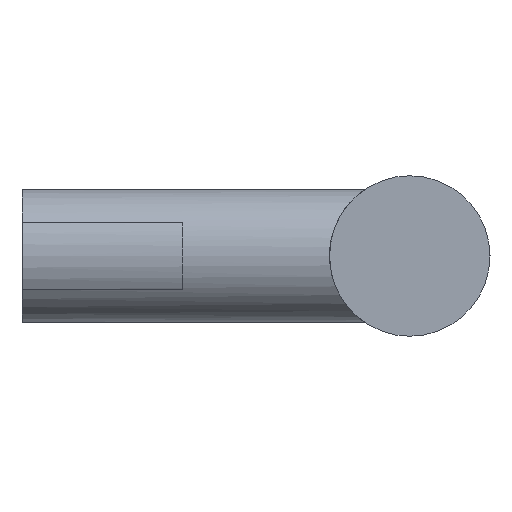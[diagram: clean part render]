
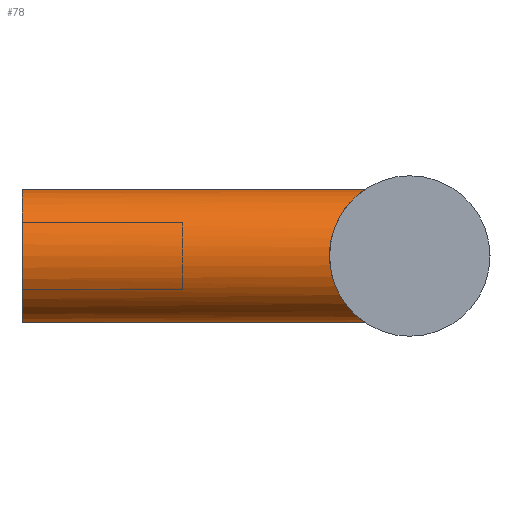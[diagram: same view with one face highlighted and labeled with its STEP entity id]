
A CAD part, left-side view. The second image highlights one B-rep face of the part: STEP entity #78.
In plain terms, the highlighted cylindrical face has radius 5 mm (diameter 10 mm), a partial arc.
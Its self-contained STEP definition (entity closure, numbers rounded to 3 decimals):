
#78 = ADVANCED_FACE( '', ( #107 ), #108, .T. );
#107 = FACE_OUTER_BOUND( '', #157, .T. );
#108 = CYLINDRICAL_SURFACE( '', #158, 5. );
#157 = EDGE_LOOP( '', ( #225, #226, #227, #228 ) );
#158 = AXIS2_PLACEMENT_3D( '', #229, #230, #231 );
#225 = ORIENTED_EDGE( '', *, *, #365, .F. );
#226 = ORIENTED_EDGE( '', *, *, #366, .T. );
#227 = ORIENTED_EDGE( '', *, *, #367, .F. );
#228 = ORIENTED_EDGE( '', *, *, #355, .F. );
#229 = CARTESIAN_POINT( '', ( 0., -12.842, 0. ) );
#230 = DIRECTION( '', ( 0., 1., 0. ) );
#231 = DIRECTION( '', ( 0., 0., 1. ) );
#355 = EDGE_CURVE( '', #403, #402, #405, .T. );
#365 = EDGE_CURVE( '', #423, #403, #424, .T. );
#366 = EDGE_CURVE( '', #423, #425, #426, .T. );
#367 = EDGE_CURVE( '', #402, #425, #427, .T. );
#402 = VERTEX_POINT( '', #540 );
#403 = VERTEX_POINT( '', #541 );
#405 = B_SPLINE_CURVE_WITH_KNOTS( '', 3, ( #576, #577, #578, #579, #580, #581, #582, #583, #584, #585, #586, #587, #588, #589, #590, #591, #592, #593, #594, #595, #596, #597, #598, #599, #600, #601, #602, #603, #604, #605, #606, #607, #608, #609 ), .UNSPECIFIED., .F., .F., ( 4, 2, 2, 2, 2, 2, 2, 2, 2, 2, 2, 2, 2, 2, 2, 2, 4 ), ( 16.322, 17.363, 18.404, 19.446, 20.487, 21.486, 22.485, 23.484, 24.483, 25.482, 26.481, 27.479, 28.478, 29.52, 30.561, 31.602, 32.643 ), .UNSPECIFIED. );
#423 = VERTEX_POINT( '', #697 );
#424 = LINE( '', #698, #699 );
#425 = VERTEX_POINT( '', #700 );
#426 = CIRCLE( '', #701, 5. );
#427 = LINE( '', #702, #703 );
#540 = CARTESIAN_POINT( '', ( 0., -25.683, -5. ) );
#541 = CARTESIAN_POINT( '', ( 0., -25.683, 5. ) );
#576 = CARTESIAN_POINT( '', ( 0., -25.683, 5. ) );
#577 = CARTESIAN_POINT( '', ( -0.347, -25.683, 5. ) );
#578 = CARTESIAN_POINT( '', ( -0.687, -25.627, 4.964 ) );
#579 = CARTESIAN_POINT( '', ( -1.343, -25.436, 4.828 ) );
#580 = CARTESIAN_POINT( '', ( -1.659, -25.301, 4.728 ) );
#581 = CARTESIAN_POINT( '', ( -2.259, -24.995, 4.472 ) );
#582 = CARTESIAN_POINT( '', ( -2.544, -24.825, 4.316 ) );
#583 = CARTESIAN_POINT( '', ( -3.073, -24.483, 3.957 ) );
#584 = CARTESIAN_POINT( '', ( -3.317, -24.311, 3.754 ) );
#585 = CARTESIAN_POINT( '', ( -3.745, -24., 3.326 ) );
#586 = CARTESIAN_POINT( '', ( -3.946, -23.847, 3.088 ) );
#587 = CARTESIAN_POINT( '', ( -4.306, -23.566, 2.561 ) );
#588 = CARTESIAN_POINT( '', ( -4.467, -23.437, 2.272 ) );
#589 = CARTESIAN_POINT( '', ( -4.728, -23.225, 1.659 ) );
#590 = CARTESIAN_POINT( '', ( -4.83, -23.141, 1.335 ) );
#591 = CARTESIAN_POINT( '', ( -4.966, -23.028, 0.672 ) );
#592 = CARTESIAN_POINT( '', ( -5., -23., 0.333 ) );
#593 = CARTESIAN_POINT( '', ( -5., -23., -0.333 ) );
#594 = CARTESIAN_POINT( '', ( -4.966, -23.028, -0.672 ) );
#595 = CARTESIAN_POINT( '', ( -4.83, -23.141, -1.335 ) );
#596 = CARTESIAN_POINT( '', ( -4.728, -23.225, -1.659 ) );
#597 = CARTESIAN_POINT( '', ( -4.467, -23.437, -2.272 ) );
#598 = CARTESIAN_POINT( '', ( -4.306, -23.566, -2.561 ) );
#599 = CARTESIAN_POINT( '', ( -3.946, -23.847, -3.088 ) );
#600 = CARTESIAN_POINT( '', ( -3.745, -24., -3.326 ) );
#601 = CARTESIAN_POINT( '', ( -3.317, -24.311, -3.754 ) );
#602 = CARTESIAN_POINT( '', ( -3.073, -24.483, -3.957 ) );
#603 = CARTESIAN_POINT( '', ( -2.544, -24.825, -4.316 ) );
#604 = CARTESIAN_POINT( '', ( -2.259, -24.995, -4.472 ) );
#605 = CARTESIAN_POINT( '', ( -1.659, -25.301, -4.728 ) );
#606 = CARTESIAN_POINT( '', ( -1.343, -25.436, -4.828 ) );
#607 = CARTESIAN_POINT( '', ( -0.687, -25.627, -4.964 ) );
#608 = CARTESIAN_POINT( '', ( -0.347, -25.683, -5. ) );
#609 = CARTESIAN_POINT( '', ( 0., -25.683, -5. ) );
#697 = CARTESIAN_POINT( '', ( 0., 0., 5. ) );
#698 = CARTESIAN_POINT( '', ( 0., -12.842, 5. ) );
#699 = VECTOR( '', #763, 1. );
#700 = CARTESIAN_POINT( '', ( 0., 0., -5. ) );
#701 = AXIS2_PLACEMENT_3D( '', #764, #765, #766 );
#702 = CARTESIAN_POINT( '', ( 0., -12.842, -5. ) );
#703 = VECTOR( '', #767, 1. );
#763 = DIRECTION( '', ( 0., -1., 0. ) );
#764 = CARTESIAN_POINT( '', ( 0., 0., 0. ) );
#765 = DIRECTION( '', ( 0., -1., 0. ) );
#766 = DIRECTION( '', ( 0., 0., 1. ) );
#767 = DIRECTION( '', ( 0., 1., 0. ) );
